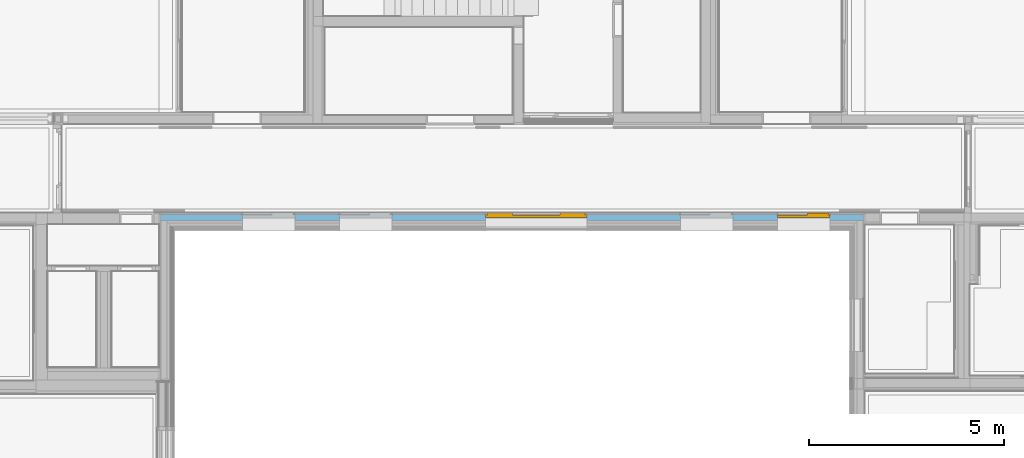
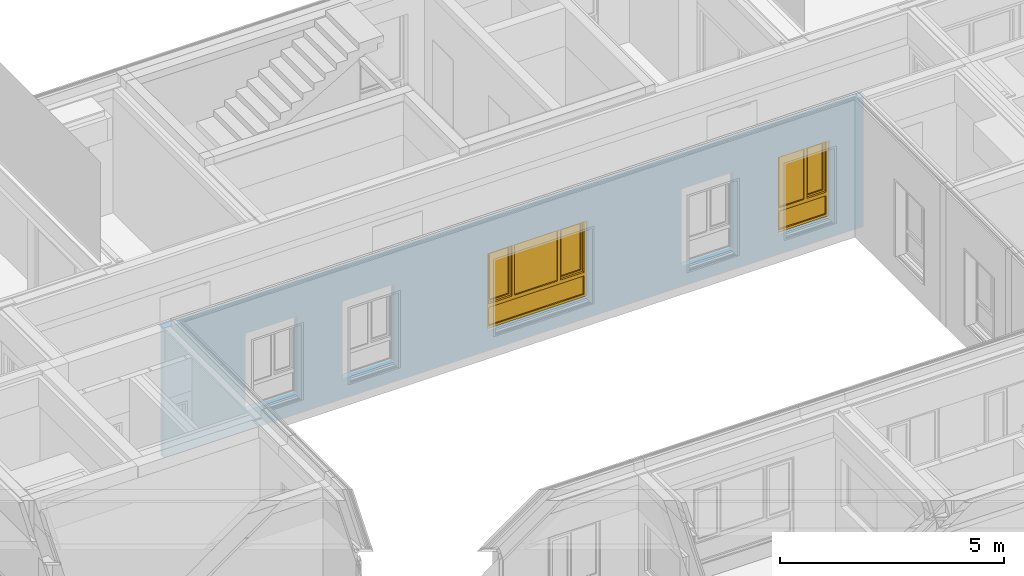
# One storey, part 97 of 222: 2 windows, 5 openings, plus 1 element that does not belong to this part.
"""IFC4 building model written with IfcOpenShell, lengths in metres."""

from ifc_helpers import new_model, entity, si_unit, converted_unit, derived_unit, frame, frame_2d, origin, origin_with_axes, place, context, subcontext, project, spatial, polyline, rectangle, outline, extrude, closed_shell, open_shell, surface_model, source, transform, mapped, material, element, fill, save


model = new_model("IFC4")

# Units and contexts
model_context = context("Model", 3, precision=1e-05, world=origin())
body_context = subcontext(model_context, "Body", "Model", "MODEL_VIEW")
ifc_project = project(units=[si_unit("LENGTHUNIT", "METRE"), si_unit("AREAUNIT", "SQUARE_METRE"), si_unit("VOLUMEUNIT", "CUBIC_METRE"), si_unit("MASSUNIT", "GRAM", prefix="KILO"), converted_unit("PLANEANGLEUNIT", "DEGREE", entity("IfcPlaneAngleMeasure", 0.0174532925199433), si_unit("PLANEANGLEUNIT", "RADIAN"), dimensions=[0, 0, 0, 0, 0, 0, 0]), derived_unit("THERMALTRANSMITTANCEUNIT", [(si_unit("POWERUNIT", "WATT"), 1), (si_unit("THERMODYNAMICTEMPERATUREUNIT", "KELVIN"), -1), (si_unit("LENGTHUNIT", "METRE"), -2)]), derived_unit("VOLUMETRICFLOWRATEUNIT", [(si_unit("LENGTHUNIT", "METRE"), 3), (converted_unit("TIMEUNIT", "hour", entity("IfcTimeMeasure", 3600.0), si_unit("TIMEUNIT", "SECOND"), dimensions=[0, 0, 1, 0, 0, 0, 0]), -1), (si_unit("LENGTHUNIT", "METRE"), -1)])], contexts=[model_context])

# Site, building, storey
site_placement = place(None, origin())
site = spatial("IfcSite", under=ifc_project, at=site_placement, Name="Psychiatrie Neubau Wunstorf", CompositionType="ELEMENT")
building_placement = place(site_placement, origin())
building = spatial("IfcBuilding", under=site, at=building_placement, Name="Neubau H2 Stationsgebäude", CompositionType="ELEMENT")
storey_placement = place(building_placement, frame((0.0, 0.0, 3.6)))
storey = spatial("IfcBuildingStorey", under=building, at=storey_placement, Name="H2 Ebene +1", CompositionType="ELEMENT", Elevation=3.6)

# Wall, openings, windows
ifc_material = material(Name="WA-DL")
wall_placement = place(storey_placement, frame((62.0250000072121, 20.5499980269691, 0.0), z_axis=(0.0, 0.0, 1.0), x_axis=(-1.0, 8.06200289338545e-16, 0.0)))
wall = element("IfcWall", 1, at=wall_placement, inside=storey, material=ifc_material, context=body_context, shape_type="SweptSolid", body=[
    extrude(rectangle(XDim=18.0500000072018, YDim=0.16, at=frame_2d((9.02500000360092, 0.08), x_axis=(1.0, 0.0))), origin_with_axes(), (0.0, 0.0, 1.0), 3.55),
])
opening_1_placement = place(wall_placement, frame((15.9524000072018, 0.159999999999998, 0.55), z_axis=(0.0, -1.0, 0.0), x_axis=(0.0, 0.0, 1.0)))
element("IfcOpeningElement", 2, at=opening_1_placement, cuts=wall, Name="Fensteröffnung", ObjectType="Opening", context=body_context, shape_type="SweptSolid", body=[
    extrude(outline(polyline([(2.115, 1.35), (2.115, 0.0), (0.0, 0.0), (0.0, 1.35), (2.115, 1.35)])), origin_with_axes(), (0.0, 0.0, 1.0), 0.159999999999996),
])
opening_2_placement = place(wall_placement, frame((13.4524000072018, 0.159999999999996, 0.55), z_axis=(0.0, -1.0, 0.0), x_axis=(0.0, 0.0, 1.0)))
element("IfcOpeningElement", 3, at=opening_2_placement, cuts=wall, Name="Fensteröffnung", ObjectType="Opening", context=body_context, shape_type="SweptSolid", body=[
    extrude(outline(polyline([(2.115, 1.35), (2.115, 0.0), (0.0, 0.0), (0.0, 1.35), (2.115, 1.35)])), origin_with_axes(), (0.0, 0.0, 1.0), 0.159999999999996),
])
opening_3_placement = place(wall_placement, frame((4.70240000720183, 0.159999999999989, 0.55), z_axis=(0.0, -1.0, 0.0), x_axis=(0.0, 0.0, 1.0)))
element("IfcOpeningElement", 4, at=opening_3_placement, cuts=wall, Name="Fensteröffnung", ObjectType="Opening", context=body_context, shape_type="SweptSolid", body=[
    extrude(outline(polyline([(2.115, 1.35), (2.115, 0.0), (0.0, 0.0), (0.0, 1.35), (2.115, 1.35)])), origin_with_axes(), (0.0, 0.0, 1.0), 0.159999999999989),
])
opening_4_placement = place(wall_placement, frame((2.20240000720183, 0.159999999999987, 0.55), z_axis=(0.0, -1.0, 0.0), x_axis=(0.0, 0.0, 1.0)))
opening_4 = element("IfcOpeningElement", 5, at=opening_4_placement, cuts=wall, Name="Fensteröffnung", ObjectType="Opening", context=body_context, shape_type="SweptSolid", body=[
    extrude(outline(polyline([(2.115, 1.35), (2.115, 0.0), (0.0, 0.0), (0.0, 1.35), (2.115, 1.35)])), origin_with_axes(), (0.0, 0.0, 1.0), 0.159999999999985),
])
opening_5_placement = place(wall_placement, frame((9.70240000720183, 0.159999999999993, 0.55), z_axis=(0.0, -1.0, 0.0), x_axis=(0.0, 0.0, 1.0)))
opening_5 = element("IfcOpeningElement", 6, at=opening_5_placement, cuts=wall, Name="Fensteröffnung", ObjectType="Opening", context=body_context, shape_type="SweptSolid", body=[
    extrude(outline(polyline([(2.115, 2.6), (2.115, 0.0), (0.0, 0.0), (0.0, 2.6), (2.115, 2.6)])), origin_with_axes(), (0.0, 0.0, 1.0), 0.159999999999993),
])
shared_shape_1 = source(origin_with_axes(), body_context, "Body", "SurfaceModel", [
    surface_model("IfcShellBasedSurfaceModel", [(0.0, 0.0, 2.115), (0.07, 0.0, 2.115), (0.07, 0.0, 0.0), (0.0, 0.0, 0.0), (0.0, 0.0699999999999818, 0.0), (0.07, 0.0699999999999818, 0.0), (0.07, 0.0699999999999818, 2.115), (0.0, 0.0699999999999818, 2.115)], [closed_shell([[[0, 1, 2, 3]], [[4, 5, 6, 7]], [[3, 4, 7, 0]], [[2, 5, 4, 3]], [[1, 6, 5, 2]], [[0, 7, 6, 1]]], orient=[[False], [False], [False], [False], [False], [False]])]),
    surface_model("IfcShellBasedSurfaceModel", [(1.28, 0.0, 2.115), (1.35, 0.0, 2.115), (1.35, 0.0, 0.0), (1.28, 0.0, 0.0), (1.28, 0.0699999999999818, 0.0), (1.35, 0.0699999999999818, 0.0), (1.35, 0.0699999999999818, 2.115), (1.28, 0.0699999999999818, 2.115)], [closed_shell([[[0, 1, 2, 3]], [[4, 5, 6, 7]], [[3, 4, 7, 0]], [[2, 5, 4, 3]], [[1, 6, 5, 2]], [[0, 7, 6, 1]]], orient=[[False], [False], [False], [False], [False], [False]])]),
    surface_model("IfcShellBasedSurfaceModel", [(0.07, 0.0, 0.07), (1.28, 0.0, 0.07), (1.28, 0.0, 0.0), (0.07, 0.0, 0.0), (0.07, 0.0699999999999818, 0.0), (1.28, 0.0699999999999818, 0.0), (1.28, 0.0699999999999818, 0.07), (0.07, 0.0699999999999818, 0.07)], [closed_shell([[[0, 1, 2, 3]], [[4, 5, 6, 7]], [[3, 4, 7, 0]], [[2, 5, 4, 3]], [[1, 6, 5, 2]], [[0, 7, 6, 1]]], orient=[[False], [False], [False], [False], [False], [False]])]),
    surface_model("IfcShellBasedSurfaceModel", [(0.07, 0.0, 2.115), (1.28, 0.0, 2.115), (1.28, 0.0, 2.045), (0.07, 0.0, 2.045), (0.07, 0.0699999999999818, 2.045), (1.28, 0.0699999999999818, 2.045), (1.28, 0.0699999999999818, 2.115), (0.07, 0.0699999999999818, 2.115)], [closed_shell([[[0, 1, 2, 3]], [[4, 5, 6, 7]], [[3, 4, 7, 0]], [[2, 5, 4, 3]], [[1, 6, 5, 2]], [[0, 7, 6, 1]]], orient=[[False], [False], [False], [False], [False], [False]])]),
    surface_model("IfcShellBasedSurfaceModel", [(0.07, 0.0, 0.67), (1.28, 0.0, 0.67), (1.28, 0.0, 0.57), (0.07, 0.0, 0.57), (0.07, 0.0699999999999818, 0.57), (1.28, 0.0699999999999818, 0.57), (1.28, 0.0699999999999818, 0.67), (0.07, 0.0699999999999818, 0.67)], [closed_shell([[[0, 1, 2, 3]], [[4, 5, 6, 7]], [[3, 4, 7, 0]], [[2, 5, 4, 3]], [[1, 6, 5, 2]], [[0, 7, 6, 1]]], orient=[[False], [False], [False], [False], [False], [False]])]),
    surface_model("IfcShellBasedSurfaceModel", [(0.07, 0.0349999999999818, 0.07), (0.07, 0.0349999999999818, 0.57), (1.28, 0.0349999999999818, 0.57), (1.28, 0.0349999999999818, 0.07)], [open_shell([[[0, 1, 2, 3]]], orient=[[False]])]),
    surface_model("IfcShellBasedSurfaceModel", [(0.565699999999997, 0.0, 2.045), (0.635699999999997, 0.0, 2.045), (0.635699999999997, 0.0, 0.67), (0.565699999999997, 0.0, 0.67), (0.565699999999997, 0.0699999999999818, 0.67), (0.635699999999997, 0.0699999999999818, 0.67), (0.635699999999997, 0.0699999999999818, 2.045), (0.565699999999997, 0.0699999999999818, 2.045)], [closed_shell([[[0, 1, 2, 3]], [[4, 5, 6, 7]], [[3, 4, 7, 0]], [[2, 5, 4, 3]], [[1, 6, 5, 2]], [[0, 7, 6, 1]]], orient=[[False], [False], [False], [False], [False], [False]])]),
    surface_model("IfcShellBasedSurfaceModel", [(0.05, -0.0500000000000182, 2.065), (0.12, -0.0500000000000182, 2.065), (0.12, -0.0500000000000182, 0.65), (0.05, -0.0500000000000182, 0.65), (0.05, 0.0199999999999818, 0.65), (0.12, 0.0199999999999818, 0.65), (0.12, 0.0199999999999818, 2.065), (0.05, 0.0199999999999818, 2.065)], [closed_shell([[[0, 1, 2, 3]], [[4, 5, 6, 7]], [[3, 4, 7, 0]], [[2, 5, 4, 3]], [[1, 6, 5, 2]], [[0, 7, 6, 1]]], orient=[[False], [False], [False], [False], [False], [False]])]),
    surface_model("IfcShellBasedSurfaceModel", [(0.515699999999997, -0.0500000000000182, 2.065), (0.585699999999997, -0.0500000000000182, 2.065), (0.585699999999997, -0.0500000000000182, 0.65), (0.515699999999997, -0.0500000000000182, 0.65), (0.515699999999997, 0.0199999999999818, 0.65), (0.585699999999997, 0.0199999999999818, 0.65), (0.585699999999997, 0.0199999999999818, 2.065), (0.515699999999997, 0.0199999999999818, 2.065)], [closed_shell([[[0, 1, 2, 3]], [[4, 5, 6, 7]], [[3, 4, 7, 0]], [[2, 5, 4, 3]], [[1, 6, 5, 2]], [[0, 7, 6, 1]]], orient=[[False], [False], [False], [False], [False], [False]])]),
    surface_model("IfcShellBasedSurfaceModel", [(0.12, -0.0500000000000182, 0.72), (0.515699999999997, -0.0500000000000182, 0.72), (0.515699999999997, -0.0500000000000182, 0.65), (0.12, -0.0500000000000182, 0.65), (0.12, 0.0199999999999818, 0.65), (0.515699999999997, 0.0199999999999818, 0.65), (0.515699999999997, 0.0199999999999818, 0.72), (0.12, 0.0199999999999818, 0.72)], [closed_shell([[[0, 1, 2, 3]], [[4, 5, 6, 7]], [[3, 4, 7, 0]], [[2, 5, 4, 3]], [[1, 6, 5, 2]], [[0, 7, 6, 1]]], orient=[[False], [False], [False], [False], [False], [False]])]),
    surface_model("IfcShellBasedSurfaceModel", [(0.12, -0.0500000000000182, 2.065), (0.515699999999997, -0.0500000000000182, 2.065), (0.515699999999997, -0.0500000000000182, 1.995), (0.12, -0.0500000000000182, 1.995), (0.12, 0.0199999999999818, 1.995), (0.515699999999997, 0.0199999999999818, 1.995), (0.515699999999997, 0.0199999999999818, 2.065), (0.12, 0.0199999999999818, 2.065)], [closed_shell([[[0, 1, 2, 3]], [[4, 5, 6, 7]], [[3, 4, 7, 0]], [[2, 5, 4, 3]], [[1, 6, 5, 2]], [[0, 7, 6, 1]]], orient=[[False], [False], [False], [False], [False], [False]])]),
    surface_model("IfcShellBasedSurfaceModel", [(0.635699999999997, 0.0349999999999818, 0.67), (0.635699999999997, 0.0349999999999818, 2.045), (1.28, 0.0349999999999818, 2.045), (1.28, 0.0349999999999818, 0.67)], [open_shell([[[0, 1, 2, 3]]], orient=[[False]])]),
    surface_model("IfcShellBasedSurfaceModel", [(0.12, -0.0150000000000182, 0.72), (0.12, -0.0150000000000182, 1.995), (0.515699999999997, -0.0150000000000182, 1.995), (0.515699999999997, -0.0150000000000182, 0.72)], [open_shell([[[0, 1, 2, 3]]], orient=[[False]])]),
])
window_1_placement = place(opening_4_placement, frame((0.0, 1.35, 0.145999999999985), z_axis=(1.0, 0.0, 0.0), x_axis=(0.0, -1.0, -8.06200289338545e-16)))
window_1 = element("IfcWindow", 7, at=window_1_placement, inside=storey, Name="Fenster", OverallHeight=2.115, OverallWidth=1.35, PartitioningType="USERDEFINED", PredefinedType="WINDOW", context=body_context, shape_type="MappedRepresentation", body=[
    mapped(shared_shape_1, transform((0.0, 0.0, 0.0), x_axis=(1.0, 0.0, 0.0), y_axis=(0.0, 1.0, 0.0), z_axis=(0.0, 0.0, 1.0), scale=1.0)),
])
fill(opening_4, window_1)
shared_shape_2 = source(origin_with_axes(), body_context, "Body", "SurfaceModel", [
    surface_model("IfcShellBasedSurfaceModel", [(0.0, 0.0, 2.115), (0.07, 0.0, 2.115), (0.07, 0.0, 0.0), (0.0, 0.0, 0.0), (0.0, 0.0699999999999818, 0.0), (0.07, 0.0699999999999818, 0.0), (0.07, 0.0699999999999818, 2.115), (0.0, 0.0699999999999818, 2.115)], [closed_shell([[[0, 1, 2, 3]], [[4, 5, 6, 7]], [[3, 4, 7, 0]], [[2, 5, 4, 3]], [[1, 6, 5, 2]], [[0, 7, 6, 1]]], orient=[[False], [False], [False], [False], [False], [False]])]),
    surface_model("IfcShellBasedSurfaceModel", [(2.53, 0.0, 2.115), (2.6, 0.0, 2.115), (2.6, 0.0, 0.0), (2.53, 0.0, 0.0), (2.53, 0.0699999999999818, 0.0), (2.6, 0.0699999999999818, 0.0), (2.6, 0.0699999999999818, 2.115), (2.53, 0.0699999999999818, 2.115)], [closed_shell([[[0, 1, 2, 3]], [[4, 5, 6, 7]], [[3, 4, 7, 0]], [[2, 5, 4, 3]], [[1, 6, 5, 2]], [[0, 7, 6, 1]]], orient=[[False], [False], [False], [False], [False], [False]])]),
    surface_model("IfcShellBasedSurfaceModel", [(0.07, 0.0, 0.07), (2.53, 0.0, 0.07), (2.53, 0.0, 0.0), (0.07, 0.0, 0.0), (0.07, 0.0699999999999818, 0.0), (2.53, 0.0699999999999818, 0.0), (2.53, 0.0699999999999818, 0.07), (0.07, 0.0699999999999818, 0.07)], [closed_shell([[[0, 1, 2, 3]], [[4, 5, 6, 7]], [[3, 4, 7, 0]], [[2, 5, 4, 3]], [[1, 6, 5, 2]], [[0, 7, 6, 1]]], orient=[[False], [False], [False], [False], [False], [False]])]),
    surface_model("IfcShellBasedSurfaceModel", [(0.07, 0.0, 2.115), (2.53, 0.0, 2.115), (2.53, 0.0, 2.045), (0.07, 0.0, 2.045), (0.07, 0.0699999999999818, 2.045), (2.53, 0.0699999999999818, 2.045), (2.53, 0.0699999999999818, 2.115), (0.07, 0.0699999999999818, 2.115)], [closed_shell([[[0, 1, 2, 3]], [[4, 5, 6, 7]], [[3, 4, 7, 0]], [[2, 5, 4, 3]], [[1, 6, 5, 2]], [[0, 7, 6, 1]]], orient=[[False], [False], [False], [False], [False], [False]])]),
    surface_model("IfcShellBasedSurfaceModel", [(0.07, 0.0, 0.67), (2.53, 0.0, 0.67), (2.53, 0.0, 0.57), (0.07, 0.0, 0.57), (0.07, 0.0699999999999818, 0.57), (2.53, 0.0699999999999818, 0.57), (2.53, 0.0699999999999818, 0.67), (0.07, 0.0699999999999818, 0.67)], [closed_shell([[[0, 1, 2, 3]], [[4, 5, 6, 7]], [[3, 4, 7, 0]], [[2, 5, 4, 3]], [[1, 6, 5, 2]], [[0, 7, 6, 1]]], orient=[[False], [False], [False], [False], [False], [False]])]),
    surface_model("IfcShellBasedSurfaceModel", [(0.07, 0.0349999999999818, 0.07), (0.07, 0.0349999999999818, 0.57), (2.53, 0.0349999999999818, 0.57), (2.53, 0.0349999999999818, 0.07)], [open_shell([[[0, 1, 2, 3]]], orient=[[False]])]),
    surface_model("IfcShellBasedSurfaceModel", [(0.675, 0.0, 2.045), (0.745, 0.0, 2.045), (0.745, 0.0, 0.67), (0.675, 0.0, 0.67), (0.675, 0.0699999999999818, 0.67), (0.745, 0.0699999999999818, 0.67), (0.745, 0.0699999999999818, 2.045), (0.675, 0.0699999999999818, 2.045)], [closed_shell([[[0, 1, 2, 3]], [[4, 5, 6, 7]], [[3, 4, 7, 0]], [[2, 5, 4, 3]], [[1, 6, 5, 2]], [[0, 7, 6, 1]]], orient=[[False], [False], [False], [False], [False], [False]])]),
    surface_model("IfcShellBasedSurfaceModel", [(0.05, -0.0500000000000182, 2.065), (0.12, -0.0500000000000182, 2.065), (0.12, -0.0500000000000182, 0.65), (0.05, -0.0500000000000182, 0.65), (0.05, 0.0199999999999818, 0.65), (0.12, 0.0199999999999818, 0.65), (0.12, 0.0199999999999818, 2.065), (0.05, 0.0199999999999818, 2.065)], [closed_shell([[[0, 1, 2, 3]], [[4, 5, 6, 7]], [[3, 4, 7, 0]], [[2, 5, 4, 3]], [[1, 6, 5, 2]], [[0, 7, 6, 1]]], orient=[[False], [False], [False], [False], [False], [False]])]),
    surface_model("IfcShellBasedSurfaceModel", [(0.625, -0.0500000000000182, 2.065), (0.695, -0.0500000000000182, 2.065), (0.695, -0.0500000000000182, 0.65), (0.625, -0.0500000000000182, 0.65), (0.625, 0.0199999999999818, 0.65), (0.695, 0.0199999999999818, 0.65), (0.695, 0.0199999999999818, 2.065), (0.625, 0.0199999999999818, 2.065)], [closed_shell([[[0, 1, 2, 3]], [[4, 5, 6, 7]], [[3, 4, 7, 0]], [[2, 5, 4, 3]], [[1, 6, 5, 2]], [[0, 7, 6, 1]]], orient=[[False], [False], [False], [False], [False], [False]])]),
    surface_model("IfcShellBasedSurfaceModel", [(0.12, -0.0500000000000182, 0.72), (0.625, -0.0500000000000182, 0.72), (0.625, -0.0500000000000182, 0.65), (0.12, -0.0500000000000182, 0.65), (0.12, 0.0199999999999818, 0.65), (0.625, 0.0199999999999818, 0.65), (0.625, 0.0199999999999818, 0.72), (0.12, 0.0199999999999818, 0.72)], [closed_shell([[[0, 1, 2, 3]], [[4, 5, 6, 7]], [[3, 4, 7, 0]], [[2, 5, 4, 3]], [[1, 6, 5, 2]], [[0, 7, 6, 1]]], orient=[[False], [False], [False], [False], [False], [False]])]),
    surface_model("IfcShellBasedSurfaceModel", [(0.12, -0.0500000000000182, 2.065), (0.625, -0.0500000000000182, 2.065), (0.625, -0.0500000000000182, 1.995), (0.12, -0.0500000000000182, 1.995), (0.12, 0.0199999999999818, 1.995), (0.625, 0.0199999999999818, 1.995), (0.625, 0.0199999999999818, 2.065), (0.12, 0.0199999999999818, 2.065)], [closed_shell([[[0, 1, 2, 3]], [[4, 5, 6, 7]], [[3, 4, 7, 0]], [[2, 5, 4, 3]], [[1, 6, 5, 2]], [[0, 7, 6, 1]]], orient=[[False], [False], [False], [False], [False], [False]])]),
    surface_model("IfcShellBasedSurfaceModel", [(1.855, 0.0, 2.045), (1.925, 0.0, 2.045), (1.925, 0.0, 0.67), (1.855, 0.0, 0.67), (1.855, 0.0699999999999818, 0.67), (1.925, 0.0699999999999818, 0.67), (1.925, 0.0699999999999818, 2.045), (1.855, 0.0699999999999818, 2.045)], [closed_shell([[[0, 1, 2, 3]], [[4, 5, 6, 7]], [[3, 4, 7, 0]], [[2, 5, 4, 3]], [[1, 6, 5, 2]], [[0, 7, 6, 1]]], orient=[[False], [False], [False], [False], [False], [False]])]),
    surface_model("IfcShellBasedSurfaceModel", [(0.12, -0.0150000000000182, 0.72), (0.12, -0.0150000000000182, 1.995), (0.625, -0.0150000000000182, 1.995), (0.625, -0.0150000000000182, 0.72)], [open_shell([[[0, 1, 2, 3]]], orient=[[False]])]),
    surface_model("IfcShellBasedSurfaceModel", [(0.745, 0.0349999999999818, 0.67), (0.745, 0.0349999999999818, 2.045), (1.855, 0.0349999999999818, 2.045), (1.855, 0.0349999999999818, 0.67)], [open_shell([[[0, 1, 2, 3]]], orient=[[False]])]),
    surface_model("IfcShellBasedSurfaceModel", [(1.905, -0.0500000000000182, 2.065), (1.975, -0.0500000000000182, 2.065), (1.975, -0.0500000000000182, 0.65), (1.905, -0.0500000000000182, 0.65), (1.905, 0.0199999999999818, 0.65), (1.975, 0.0199999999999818, 0.65), (1.975, 0.0199999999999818, 2.065), (1.905, 0.0199999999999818, 2.065)], [closed_shell([[[0, 1, 2, 3]], [[4, 5, 6, 7]], [[3, 4, 7, 0]], [[2, 5, 4, 3]], [[1, 6, 5, 2]], [[0, 7, 6, 1]]], orient=[[False], [False], [False], [False], [False], [False]])]),
    surface_model("IfcShellBasedSurfaceModel", [(2.48, -0.0500000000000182, 2.065), (2.55, -0.0500000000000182, 2.065), (2.55, -0.0500000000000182, 0.65), (2.48, -0.0500000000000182, 0.65), (2.48, 0.0199999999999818, 0.65), (2.55, 0.0199999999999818, 0.65), (2.55, 0.0199999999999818, 2.065), (2.48, 0.0199999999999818, 2.065)], [closed_shell([[[0, 1, 2, 3]], [[4, 5, 6, 7]], [[3, 4, 7, 0]], [[2, 5, 4, 3]], [[1, 6, 5, 2]], [[0, 7, 6, 1]]], orient=[[False], [False], [False], [False], [False], [False]])]),
    surface_model("IfcShellBasedSurfaceModel", [(1.975, -0.0500000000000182, 0.72), (2.48, -0.0500000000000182, 0.72), (2.48, -0.0500000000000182, 0.65), (1.975, -0.0500000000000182, 0.65), (1.975, 0.0199999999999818, 0.65), (2.48, 0.0199999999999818, 0.65), (2.48, 0.0199999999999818, 0.72), (1.975, 0.0199999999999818, 0.72)], [closed_shell([[[0, 1, 2, 3]], [[4, 5, 6, 7]], [[3, 4, 7, 0]], [[2, 5, 4, 3]], [[1, 6, 5, 2]], [[0, 7, 6, 1]]], orient=[[False], [False], [False], [False], [False], [False]])]),
    surface_model("IfcShellBasedSurfaceModel", [(1.975, -0.0500000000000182, 2.065), (2.48, -0.0500000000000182, 2.065), (2.48, -0.0500000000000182, 1.995), (1.975, -0.0500000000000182, 1.995), (1.975, 0.0199999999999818, 1.995), (2.48, 0.0199999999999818, 1.995), (2.48, 0.0199999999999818, 2.065), (1.975, 0.0199999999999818, 2.065)], [closed_shell([[[0, 1, 2, 3]], [[4, 5, 6, 7]], [[3, 4, 7, 0]], [[2, 5, 4, 3]], [[1, 6, 5, 2]], [[0, 7, 6, 1]]], orient=[[False], [False], [False], [False], [False], [False]])]),
    surface_model("IfcShellBasedSurfaceModel", [(1.975, -0.0150000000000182, 0.72), (1.975, -0.0150000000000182, 1.995), (2.48, -0.0150000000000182, 1.995), (2.48, -0.0150000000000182, 0.72)], [open_shell([[[0, 1, 2, 3]]], orient=[[False]])]),
])
window_2_placement = place(opening_5_placement, frame((0.0, 2.6, 0.145999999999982), z_axis=(1.0, 0.0, 0.0), x_axis=(0.0, -1.0, -8.06200289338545e-16)))
window_2 = element("IfcWindow", 8, at=window_2_placement, inside=storey, Name="Fenster", OverallHeight=2.115, OverallWidth=2.6, PartitioningType="USERDEFINED", PredefinedType="WINDOW", context=body_context, shape_type="MappedRepresentation", body=[
    mapped(shared_shape_2, transform((0.0, 0.0, 0.0), x_axis=(1.0, 0.0, 0.0), y_axis=(0.0, 1.0, 0.0), z_axis=(0.0, 0.0, 1.0), scale=1.0)),
])
fill(opening_5, window_2)

save(model, "model.ifc")
